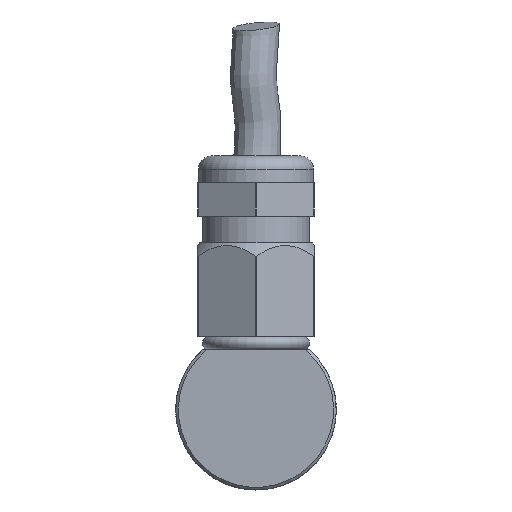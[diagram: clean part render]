
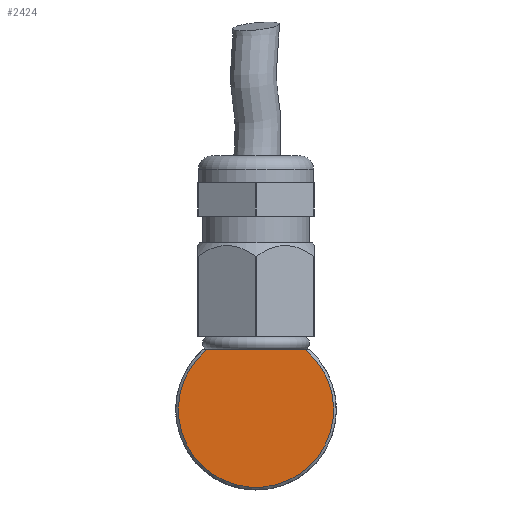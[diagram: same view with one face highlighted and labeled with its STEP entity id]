
A CAD part, left-side view. The second image highlights one B-rep face of the part: STEP entity #2424.
In plain terms, the highlighted planar face has unit normal (-1, 0, 0).
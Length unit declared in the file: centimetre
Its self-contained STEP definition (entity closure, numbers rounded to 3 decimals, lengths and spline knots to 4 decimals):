
#682=PLANE('',#2573);
#818=VECTOR('',#2880,1.);
#948=LINE('',#4207,#818);
#1118=VERTEX_POINT('',#4199);
#1119=VERTEX_POINT('',#4203);
#1227=CIRCLE('',#2570,0.58);
#1429=EDGE_CURVE('',#1119,#1118,#1227,.T.);
#1431=EDGE_CURVE('',#1119,#1118,#948,.T.);
#1828=ORIENTED_EDGE('',*,*,#1429,.F.);
#1829=ORIENTED_EDGE('',*,*,#1431,.T.);
#2163=EDGE_LOOP('',(#1828,#1829));
#2297=FACE_BOUND('',#2163,.T.);
#2424=ADVANCED_FACE('',(#2297),#682,.T.);
#2570=AXIS2_PLACEMENT_3D('',#4204,#2876,#2877);
#2573=AXIS2_PLACEMENT_3D('',#4209,#2882,$);
#2876=DIRECTION('',(1.,0.,0.));
#2877=DIRECTION('',(0.,0.,-0.58));
#2880=DIRECTION('',(0.,1.,0.));
#2882=DIRECTION('',(-1.,0.,0.));
#4199=CARTESIAN_POINT('',(0.,0.3693,0.4472));
#4203=CARTESIAN_POINT('',(0.,-0.3693,0.4472));
#4204=CARTESIAN_POINT('',(0.,0.,0.));
#4207=CARTESIAN_POINT('',(0.,2.775,0.4472));
#4209=CARTESIAN_POINT('',(0.,0.,-0.125));
